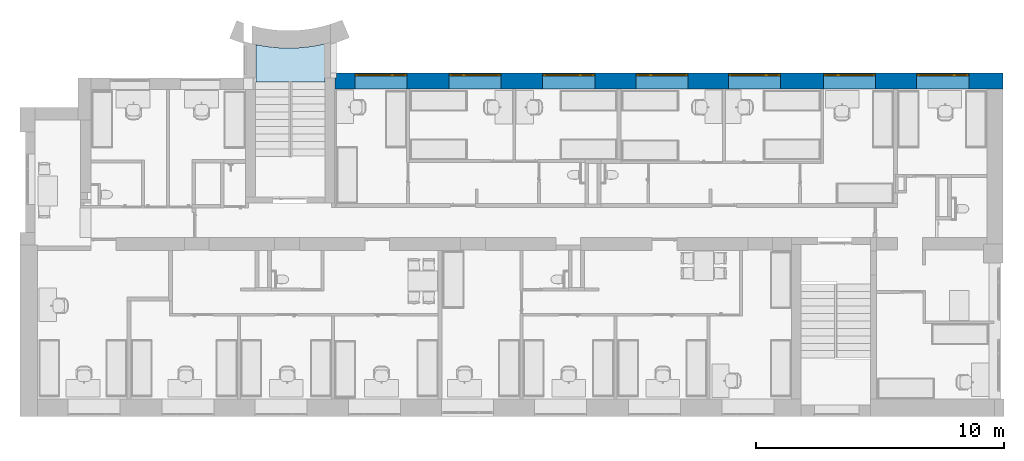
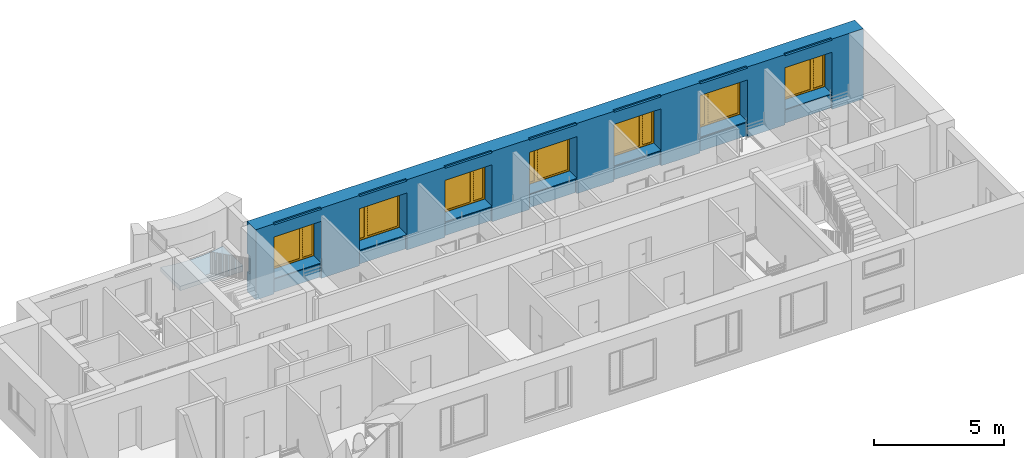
# One storey, part 14 of 48: 7 windows, 1 slab, 1 wall, 7 openings, 1 element without a shape of its own.
"""IFC2X3 building model written with IfcOpenShell, lengths in millimetres."""

from ifc_helpers import new_model, entity, si_unit, converted_unit, derived_unit, direction, frame, frame_2d, origin, place, context, subcontext, project, spatial, rectangle, extrude, faceted_brep, source, transform, mapped, material, material_list, layer, layer_set, type_object, type_shapes, element, fill, aggregate, save


model = new_model("IFC2X3")

# Units and contexts
model_context = context("Model", 3, precision=0.01, world=origin(), true_north=direction((6.12303176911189e-17, 1.0)))
body_context = subcontext(model_context, "Body", "Model", "MODEL_VIEW")
ifc_project = project(units=[si_unit("LENGTHUNIT", "METRE", prefix="MILLI"), si_unit("AREAUNIT", "SQUARE_METRE"), si_unit("VOLUMEUNIT", "CUBIC_METRE"), converted_unit("PLANEANGLEUNIT", "DEGREE", entity("IfcRatioMeasure", 0.0174532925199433), si_unit("PLANEANGLEUNIT", "RADIAN"), dimensions=[0, 0, 0, 0, 0, 0, 0]), si_unit("MASSUNIT", "GRAM", prefix="KILO"), derived_unit("MASSDENSITYUNIT", [(si_unit("MASSUNIT", "GRAM", prefix="KILO"), 1), (si_unit("LENGTHUNIT", "METRE"), -3)]), si_unit("TIMEUNIT", "SECOND"), si_unit("FREQUENCYUNIT", "HERTZ"), si_unit("THERMODYNAMICTEMPERATUREUNIT", "DEGREE_CELSIUS"), derived_unit("THERMALTRANSMITTANCEUNIT", [(si_unit("MASSUNIT", "GRAM", prefix="KILO"), 1), (si_unit("THERMODYNAMICTEMPERATUREUNIT", "KELVIN"), -1), (si_unit("TIMEUNIT", "SECOND"), -3)]), derived_unit("VOLUMETRICFLOWRATEUNIT", [(si_unit("LENGTHUNIT", "METRE"), 3), (si_unit("TIMEUNIT", "SECOND"), -1)]), si_unit("ELECTRICCURRENTUNIT", "AMPERE"), si_unit("ELECTRICVOLTAGEUNIT", "VOLT"), si_unit("POWERUNIT", "WATT"), si_unit("FORCEUNIT", "NEWTON", prefix="KILO"), si_unit("ILLUMINANCEUNIT", "LUX"), si_unit("LUMINOUSFLUXUNIT", "LUMEN"), si_unit("LUMINOUSINTENSITYUNIT", "CANDELA"), derived_unit("USERDEFINED", [(si_unit("MASSUNIT", "GRAM", prefix="KILO"), -1), (si_unit("LENGTHUNIT", "METRE"), -2), (si_unit("TIMEUNIT", "SECOND"), 3), (si_unit("LUMINOUSFLUXUNIT", "LUMEN"), 1)]), derived_unit("LINEARVELOCITYUNIT", [(si_unit("LENGTHUNIT", "METRE"), 1), (si_unit("TIMEUNIT", "SECOND"), -1)]), si_unit("PRESSUREUNIT", "PASCAL"), derived_unit("USERDEFINED", [(si_unit("LENGTHUNIT", "METRE"), -2), (si_unit("MASSUNIT", "GRAM", prefix="KILO"), 1), (si_unit("TIMEUNIT", "SECOND"), -2)]), derived_unit("LINEARFORCEUNIT", [(si_unit("MASSUNIT", "GRAM", prefix="KILO"), 1), (si_unit("LENGTHUNIT", "METRE"), 1), (si_unit("TIMEUNIT", "SECOND"), -2), (si_unit("LENGTHUNIT", "METRE"), -1)]), derived_unit("PLANARFORCEUNIT", [(si_unit("MASSUNIT", "GRAM", prefix="KILO"), 1), (si_unit("LENGTHUNIT", "METRE"), 1), (si_unit("TIMEUNIT", "SECOND"), -2), (si_unit("LENGTHUNIT", "METRE"), -2)])], contexts=[model_context])

# Site, building, storey
site_placement = place(None, origin())
site = spatial("IfcSite", under=ifc_project, at=site_placement, Name="Default", CompositionType="ELEMENT")
building_placement = place(site_placement, origin())
building = spatial("IfcBuilding", under=site, at=building_placement, Name="SMA ARH", CompositionType="ELEMENT")
storey_placement = place(building_placement, frame((0.0, 0.0, 3300.0)))
storey = spatial("IfcBuildingStorey", under=building, at=storey_placement, Name="2 Korrus", CompositionType="ELEMENT", Elevation=3299.99999999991)

# Stair, slab
stair_placement = place(storey_placement, origin())
stair = element("IfcStair", 1, at=stair_placement, inside=storey, Name="Cast-In-Place Stair:Stair", ObjectType="Cast-In-Place Stair:Cast-In-Place Stair", ShapeType="STRAIGHT_RUN_STAIR")
slab_type = type_object("IfcSlabType", Name="Monolithic Landing:300 mm Thickness", PredefinedType="LANDING")
slab_placement = place(stair_placement, frame((8813.40472776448, 12798.4708868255, 0.0)))
slab = element("IfcSlab", 2, at=slab_placement, type_object=slab_type, Name="Cast-In-Place Stair:Stair:912326 Landing 1", ObjectType="Monolithic Landing:300 mm Thickness", PredefinedType="LANDING", context=body_context, shape_type="Brep", body=[
    faceted_brep([(1121.17478743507, 1364.89497997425, 1570.0), (839.228157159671, 1380.49891291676, 1570.0), (558.269997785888, 1408.78137617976, 1570.0), (278.870144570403, 1449.68500768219, 1570.0), (1.5952722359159, 1503.12684727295, 1570.0), (1.5952722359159, 0.0, 1570.0), (1426.59527223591, 0.0, 1570.0), (2801.59527223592, 0.0, 1570.0), (2801.59527223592, 122.25920009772, 1570.0), (2801.59527223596, 1537.48908395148, 1570.0), (2525.71541000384, 1477.25880367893, 1570.0), (2247.40350973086, 1429.51080672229, 1570.0), (1967.22403956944, 1394.34193487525, 1570.0), (1685.74525545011, 1371.8235171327, 1570.0), (1403.53804855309, 1362.00122502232, 1570.0), (2801.59527223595, 1537.48908395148, 1370.0), (2525.71541000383, 1477.25880367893, 1370.0), (1967.22403956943, 1394.34193487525, 1370.0), (1685.74525545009, 1371.82351713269, 1370.0), (2247.40350973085, 1429.51080672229, 1370.0), (1403.53804855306, 1362.00122502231, 1370.0), (1121.17478743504, 1364.89497997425, 1370.0), (839.228157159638, 1380.49891291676, 1370.0), (278.87014457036, 1449.68500768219, 1370.0), (1.5952722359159, 1503.12684727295, 1370.0), (558.269997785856, 1408.78137617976, 1370.0), (1.5952722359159, 0.0, 1370.0), (2801.59527223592, 0.0, 1420.90909090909), (2801.59527223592, 0.0, 1309.24088237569), (2801.59527223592, 122.25920009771, 1370.0), (1426.59527223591, 122.25920009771, 1370.0), (1426.59527223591, 0.0, 1370.0), (1426.59527223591, 0.0, 1309.24088237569)], [[[0, 1, 2, 3, 4, 5, 6, 7, 8, 9, 10, 11, 12, 13, 14]], [[15, 16, 10, 9]], [[17, 18, 13, 12]], [[19, 17, 12, 11]], [[16, 19, 11, 10]], [[20, 14, 13, 18]], [[21, 22, 1, 0]], [[23, 24, 4, 3]], [[25, 23, 3, 2]], [[22, 25, 2, 1]], [[20, 21, 0, 14]], [[5, 4, 24, 26]], [[8, 7, 27, 28, 29, 15, 9]], [[16, 15, 29, 30, 31, 26, 24, 23, 25, 22, 21, 20, 18, 17, 19]], [[7, 6, 5, 26, 31, 32, 28, 27]], [[32, 30, 29, 28]], [[32, 31, 30]]]),
])
aggregate(stair, [slab])

# Wall, openings, windows
ifc_material_1 = material(Name="_ol.olev sein")
ifc_layer = layer(ifc_material_1, 665.0)
ifc_layer_set = layer_set([ifc_layer], Name="Basic Wall:Generic - 665mm")
wall_type = type_object("IfcWallType", Name="Basic Wall:Generic - 665mm", PredefinedType="STANDARD", material=ifc_layer_set)
wall_placement = place(storey_placement, frame((38965.0, 12832.4999999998, 0.0), z_axis=(0.0, 0.0, 1.0), x_axis=(-1.0, 0.0, 0.0)))
wall = element("IfcWall", 3, at=wall_placement, inside=storey, type_object=wall_type, Name="Basic Wall:Generic - 665mm", ObjectType="Basic Wall:Generic - 665mm", context=body_context, shape_type="Brep", body=[
    faceted_brep([(0.0, -332.5, 0.0), (26895.0, -332.500000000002, 0.0), (26965.0, -332.500000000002, 0.0), (26965.0, -332.5, 940.0), (26895.0, -332.500000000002, 940.0), (26895.0, -332.5, 1780.0), (26965.0, -332.500000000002, 1780.0), (26965.0, -332.500000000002, 3300.0), (26895.0, -332.500000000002, 3300.0), (0.0, -332.5, 3300.0), (20255.0, -332.5, 730.0), (20255.0, -332.5, 2680.0), (22355.0, -332.5, 2680.0), (22355.0, -332.5, 730.0), (18575.0, -332.5, 730.0), (16475.0, -332.5, 730.0), (16475.0, -332.5, 2680.0), (18575.0, -332.5, 2680.0), (12715.0, -332.5, 730.0), (12715.0, -332.5, 2680.0), (14815.0, -332.5, 2680.0), (14815.0, -332.5, 730.0), (11075.0, -332.5, 730.0), (8975.0, -332.5, 730.0), (8975.0, -332.5, 2680.0), (11075.0, -332.5, 2680.0), (5150.0, -332.5, 745.0), (5150.0, -332.5, 2695.0), (7250.0, -332.5, 2695.0), (7250.0, -332.5, 745.0), (3485.0, -332.5, 730.0), (1385.0, -332.5, 730.0), (1385.0, -332.5, 2680.0), (3485.0, -332.5, 2680.0), (26155.0, -332.5, 730.0), (24055.0, -332.5, 730.0), (24055.0, -332.5, 2680.0), (26155.0, -332.5, 2680.0), (0.0, 332.5, 0.0), (0.0, 332.5, 3300.0), (650.0, 332.5, 3300.0), (1385.0, 332.5, 3300.0), (1385.0, 332.5, 3240.0), (3485.0, 332.5, 3240.0), (3485.0, 332.5, 3300.0), (5150.0, 332.5, 3300.0), (5150.0, 332.5, 3240.0), (7250.0, 332.5, 3240.0), (7250.0, 332.5, 3300.0), (8975.0, 332.5, 3300.0), (8975.0, 332.5, 3240.0), (11075.0, 332.5, 3240.0), (11075.0, 332.5, 3300.0), (12715.0, 332.5, 3300.0), (12715.0, 332.5, 3240.0), (14815.0, 332.5, 3240.0), (14815.0, 332.5, 3300.0), (16475.0, 332.5, 3300.0), (16475.0, 332.5, 3240.0), (18575.0, 332.5, 3240.0), (18575.0, 332.5, 3300.0), (20255.0, 332.5, 3300.0), (20255.0, 332.5, 3240.0), (22355.0, 332.5, 3240.0), (22355.0, 332.5, 3300.0), (24055.0, 332.5, 3300.0), (24055.0, 332.5, 3240.0), (26155.0, 332.5, 3240.0), (26155.0, 332.5, 3300.0), (26965.0, 332.499999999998, 3300.0), (26965.0, 332.499999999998, 2970.0), (26965.0, 332.499999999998, 1780.0), (26965.0, 332.499999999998, 940.0), (26965.0, 332.499999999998, 0.0), (26963.2500000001, 332.499999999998, 0.0), (26900.7500000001, 332.499999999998, 0.0), (26155.0, 332.5, 0.0), (26155.0, 332.5, 697.825710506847), (24055.0, 332.5, 697.825710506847), (24055.0, 332.5, 0.0), (23949.5, 332.5, 0.0), (22355.0, 332.5, 0.0), (22355.0, 332.5, 697.825710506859), (20255.0, 332.5, 697.825710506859), (20255.0, 332.5, 0.0), (19779.5, 332.5, 0.0), (19663.5, 332.5, 0.0), (18575.0, 332.5, 0.0), (18575.0, 332.5, 697.825710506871), (16475.0, 332.5, 697.825710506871), (16475.0, 332.5, 0.0), (15573.75, 332.5, 0.0), (15411.25, 332.5, 0.0), (14815.0, 332.5, 0.0), (14815.0, 332.5, 697.825710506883), (12715.0, 332.5, 697.825710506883), (12715.0, 332.5, 0.0), (11321.5, 332.5, 0.0), (11205.5, 332.499999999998, 0.0), (11075.0, 332.5, 0.0), (11075.0, 332.5, 697.825710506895), (8975.0, 332.5, 697.825710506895), (8975.0, 332.5, 0.0), (7356.0, 332.5, 0.0), (7250.0, 332.5, 0.0), (7250.0, 332.5, 697.825710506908), (5150.0, 332.5, 697.825710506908), (5150.0, 332.5, 0.0), (4420.75, 332.499999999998, 0.0), (4258.25, 332.5, 0.0), (3485.0, 332.5, 0.0), (3485.0, 332.5, 697.82571050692), (1385.0, 332.5, 697.82571050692), (1385.0, 332.5, 0.0), (650.0, 332.5, 0.0), (20255.0, 332.5, 730.0), (22355.0, 332.5, 730.0), (22355.0, 332.5, 2680.0), (20255.0, 332.5, 2680.0), (18575.0, 332.5, 730.0), (18575.0, 332.5, 2680.0), (16475.0, 332.5, 2680.0), (16475.0, 332.5, 730.0), (12715.0, 332.5, 730.0), (14815.0, 332.5, 730.0), (14815.0, 332.5, 2680.0), (12715.0, 332.5, 2680.0), (11075.0, 332.5, 730.0), (11075.0, 332.5, 2680.0), (8975.0, 332.5, 2680.0), (8975.0, 332.5, 730.0), (5150.0, 332.5, 745.0), (7250.0, 332.5, 745.0), (7250.0, 332.5, 2695.0), (5150.0, 332.5, 2695.0), (3485.0, 332.5, 730.0), (3485.0, 332.5, 2680.0), (1385.0, 332.5, 2680.0), (1385.0, 332.5, 730.0), (26155.0, 332.5, 730.0), (26155.0, 332.5, 2680.0), (24055.0, 332.5, 2680.0), (24055.0, 332.5, 730.0), (1385.0, 232.499999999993, 0.0), (3485.0, 232.499999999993, 0.0), (5150.0, 232.499999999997, 0.0), (7250.0, 232.499999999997, 0.0), (8975.0, 232.499999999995, 0.0), (11075.0, 232.499999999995, 0.0), (12715.0, 232.499999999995, 0.0), (14815.0, 232.499999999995, 0.0), (16475.0, 232.499999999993, 0.0), (18575.0, 232.499999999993, 0.0), (20255.0, 232.499999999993, 0.0), (22355.0, 232.499999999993, 0.0), (24055.0, 232.49999999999, 0.0), (26155.0, 232.49999999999, 0.0), (26965.0, -112.499999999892, 0.0), (26965.0, -285.758096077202, 0.0), (26965.0, -112.499999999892, 3300.0), (26155.0, 232.49999999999, 3300.0), (24055.0, 232.49999999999, 3300.0), (22355.0, 232.499999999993, 3300.0), (20255.0, 232.499999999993, 3300.0), (18575.0, 232.499999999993, 3300.0), (16475.0, 232.499999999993, 3300.0), (14815.0, 232.499999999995, 3300.0), (12715.0, 232.499999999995, 3300.0), (11075.0, 232.499999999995, 3300.0), (8975.0, 232.499999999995, 3300.0), (7250.0, 232.499999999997, 3300.0), (5150.0, 232.499999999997, 3300.0), (3485.0, 232.499999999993, 3300.0), (1385.0, 232.499999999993, 3300.0), (26965.0, -112.499999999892, 940.0), (26895.0, -112.499999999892, 940.0), (26895.0, -112.499999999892, 1780.0), (26965.0, -112.499999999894, 1780.0), (24055.0, 232.49999999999, 697.825710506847), (26155.0, 232.49999999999, 697.825710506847), (20255.0, 232.499999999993, 697.825710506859), (22355.0, 232.499999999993, 697.825710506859), (16475.0, 232.499999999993, 697.825710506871), (18575.0, 232.499999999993, 697.825710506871), (12715.0, 232.499999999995, 697.825710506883), (14815.0, 232.499999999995, 697.825710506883), (8975.0, 232.499999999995, 697.825710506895), (11075.0, 232.499999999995, 697.825710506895), (5150.0, 232.499999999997, 697.825710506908), (7250.0, 232.499999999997, 697.825710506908), (1385.0, 232.499999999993, 697.82571050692), (3485.0, 232.499999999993, 697.82571050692), (26155.0, 232.49999999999, 3240.0), (24055.0, 232.49999999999, 3240.0), (22355.0, 232.499999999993, 3240.0), (20255.0, 232.499999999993, 3240.0), (18575.0, 232.499999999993, 3240.0), (16475.0, 232.499999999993, 3240.0), (14815.0, 232.499999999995, 3240.0), (12715.0, 232.499999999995, 3240.0), (11075.0, 232.499999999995, 3240.0), (8975.0, 232.499999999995, 3240.0), (7250.0, 232.499999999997, 3240.0), (5150.0, 232.499999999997, 3240.0), (3485.0, 232.499999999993, 3240.0), (1385.0, 232.499999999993, 3240.0)], [[[0, 1, 2, 3, 4, 5, 6, 7, 8, 9], [10, 11, 12, 13], [14, 15, 16, 17], [18, 19, 20, 21], [22, 23, 24, 25], [26, 27, 28, 29], [30, 31, 32, 33], [34, 35, 36, 37]], [[38, 39, 40, 41, 42, 43, 44, 45, 46, 47, 48, 49, 50, 51, 52, 53, 54, 55, 56, 57, 58, 59, 60, 61, 62, 63, 64, 65, 66, 67, 68, 69, 70, 71, 72, 73, 74, 75, 76, 77, 78, 79, 80, 81, 82, 83, 84, 85, 86, 87, 88, 89, 90, 91, 92, 93, 94, 95, 96, 97, 98, 99, 100, 101, 102, 103, 104, 105, 106, 107, 108, 109, 110, 111, 112, 113, 114], [115, 116, 117, 118], [119, 120, 121, 122], [123, 124, 125, 126], [127, 128, 129, 130], [131, 132, 133, 134], [135, 136, 137, 138], [139, 140, 141, 142]], [[2, 1, 0, 38, 114, 113, 143, 144, 110, 109, 108, 107, 145, 146, 104, 103, 102, 147, 148, 99, 98, 97, 96, 149, 150, 93, 92, 91, 90, 151, 152, 87, 86, 85, 84, 153, 154, 81, 80, 79, 155, 156, 76, 75, 74, 73, 157, 158]], [[9, 8, 7, 159, 69, 68, 160, 161, 65, 64, 162, 163, 61, 60, 164, 165, 57, 56, 166, 167, 53, 52, 168, 169, 49, 48, 170, 171, 45, 44, 172, 173, 41, 40, 39]], [[0, 9, 39, 38]], [[11, 10, 115, 118]], [[12, 11, 118, 117]], [[13, 12, 117, 116]], [[10, 13, 116, 115]], [[120, 119, 14, 17]], [[121, 120, 17, 16]], [[122, 121, 16, 15]], [[119, 122, 15, 14]], [[19, 18, 123, 126]], [[20, 19, 126, 125]], [[21, 20, 125, 124]], [[18, 21, 124, 123]], [[128, 127, 22, 25]], [[129, 128, 25, 24]], [[130, 129, 24, 23]], [[127, 130, 23, 22]], [[27, 26, 131, 134]], [[28, 27, 134, 133]], [[29, 28, 133, 132]], [[26, 29, 132, 131]], [[136, 135, 30, 33]], [[137, 136, 33, 32]], [[138, 137, 32, 31]], [[135, 138, 31, 30]], [[140, 139, 34, 37]], [[141, 140, 37, 36]], [[142, 141, 36, 35]], [[139, 142, 35, 34]], [[4, 3, 174, 175]], [[6, 5, 176, 177]], [[2, 158, 157, 73, 72, 174, 3]], [[5, 4, 175, 176]], [[175, 174, 177, 176]], [[72, 71, 177, 174]], [[69, 159, 7, 6, 177, 71, 70]], [[178, 179, 156, 155]], [[78, 178, 155, 79]], [[179, 77, 76, 156]], [[179, 178, 78, 77]], [[180, 181, 154, 153]], [[83, 180, 153, 84]], [[181, 82, 81, 154]], [[181, 180, 83, 82]], [[182, 183, 152, 151]], [[89, 182, 151, 90]], [[183, 88, 87, 152]], [[183, 182, 89, 88]], [[184, 185, 150, 149]], [[95, 184, 149, 96]], [[185, 94, 93, 150]], [[185, 184, 95, 94]], [[186, 187, 148, 147]], [[101, 186, 147, 102]], [[187, 100, 99, 148]], [[187, 186, 101, 100]], [[188, 189, 146, 145]], [[106, 188, 145, 107]], [[189, 105, 104, 146]], [[189, 188, 106, 105]], [[190, 191, 144, 143]], [[112, 190, 143, 113]], [[191, 111, 110, 144]], [[191, 190, 112, 111]], [[192, 193, 161, 160]], [[193, 66, 65, 161]], [[193, 192, 67, 66]], [[67, 192, 160, 68]], [[194, 195, 163, 162]], [[195, 62, 61, 163]], [[195, 194, 63, 62]], [[63, 194, 162, 64]], [[196, 197, 165, 164]], [[197, 58, 57, 165]], [[197, 196, 59, 58]], [[59, 196, 164, 60]], [[198, 199, 167, 166]], [[199, 54, 53, 167]], [[199, 198, 55, 54]], [[55, 198, 166, 56]], [[200, 201, 169, 168]], [[201, 50, 49, 169]], [[201, 200, 51, 50]], [[51, 200, 168, 52]], [[202, 203, 171, 170]], [[203, 46, 45, 171]], [[203, 202, 47, 46]], [[47, 202, 170, 48]], [[204, 205, 173, 172]], [[205, 42, 41, 173]], [[205, 204, 43, 42]], [[43, 204, 172, 44]]]),
])
opening_1_placement = place(wall_placement, frame((3485.0, 332.499999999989, 730.0)))
opening_1 = element("IfcOpeningElement", 4, at=opening_1_placement, cuts=wall, Name="SMA_W2, 2-jaotus:A-00 - 2100x1900:1", ObjectType="Opening", context=body_context, shape_type="SweptSolid", body=[
    extrude(rectangle(XDim=1950.0, YDim=2100.0, at=frame_2d((975.0, 1050.0), x_axis=(1.0, 0.0))), frame((0.0, 0.0, 0.0), z_axis=(0.0, -1.0, 0.0), x_axis=(0.0, 0.0, 1.0)), (0.0, 0.0, 1.0), 665.0),
])
opening_2_placement = place(wall_placement, frame((7250.0, 332.499999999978, 745.0)))
opening_2 = element("IfcOpeningElement", 5, at=opening_2_placement, cuts=wall, Name="SMA_W2, 2-jaotus:A-00 - 2100x1900:1", ObjectType="Opening", context=body_context, shape_type="SweptSolid", body=[
    extrude(rectangle(XDim=1950.0, YDim=2100.0, at=frame_2d((975.0, 1050.0), x_axis=(1.0, 0.0))), frame((0.0, 0.0, 0.0), z_axis=(0.0, -1.0, 0.0), x_axis=(0.0, 0.0, 1.0)), (0.0, 0.0, 1.0), 665.0),
])
opening_3_placement = place(wall_placement, frame((11075.0, 332.499999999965, 730.0)))
opening_3 = element("IfcOpeningElement", 6, at=opening_3_placement, cuts=wall, Name="SMA_W2, 2-jaotus:A-00 - 2100x1900:1", ObjectType="Opening", context=body_context, shape_type="SweptSolid", body=[
    extrude(rectangle(XDim=1950.0, YDim=2100.0, at=frame_2d((975.0, 1050.0), x_axis=(1.0, 0.0))), frame((0.0, 0.0, 0.0), z_axis=(0.0, -1.0, 0.0), x_axis=(0.0, 0.0, 1.0)), (0.0, 0.0, 1.0), 665.0),
])
opening_4_placement = place(wall_placement, frame((14815.0, 332.499999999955, 730.0)))
opening_4 = element("IfcOpeningElement", 7, at=opening_4_placement, cuts=wall, Name="SMA_W2, 2-jaotus:A-00 - 2100x1900:1", ObjectType="Opening", context=body_context, shape_type="SweptSolid", body=[
    extrude(rectangle(XDim=1950.0, YDim=2100.0, at=frame_2d((975.0, 1050.0), x_axis=(1.0, 0.0))), frame((0.0, 0.0, 0.0), z_axis=(0.0, -1.0, 0.0), x_axis=(0.0, 0.0, 1.0)), (0.0, 0.0, 1.0), 665.0),
])
opening_5_placement = place(wall_placement, frame((18575.0, 332.499999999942, 730.0)))
opening_5 = element("IfcOpeningElement", 8, at=opening_5_placement, cuts=wall, Name="SMA_W2, 2-jaotus:A-00 - 2100x1900:1", ObjectType="Opening", context=body_context, shape_type="SweptSolid", body=[
    extrude(rectangle(XDim=1950.0, YDim=2100.0, at=frame_2d((975.0, 1050.0), x_axis=(1.0, 0.0))), frame((0.0, 0.0, 0.0), z_axis=(0.0, -1.0, 0.0), x_axis=(0.0, 0.0, 1.0)), (0.0, 0.0, 1.0), 665.0),
])
opening_6_placement = place(wall_placement, frame((22355.0, 332.499999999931, 730.0)))
opening_6 = element("IfcOpeningElement", 9, at=opening_6_placement, cuts=wall, Name="SMA_W2, 2-jaotus:A-00 - 2100x1900:1", ObjectType="Opening", context=body_context, shape_type="SweptSolid", body=[
    extrude(rectangle(XDim=1950.0, YDim=2100.0, at=frame_2d((975.0, 1050.0), x_axis=(1.0, 0.0))), frame((0.0, 0.0, 0.0), z_axis=(0.0, -1.0, 0.0), x_axis=(0.0, 0.0, 1.0)), (0.0, 0.0, 1.0), 665.0),
])
opening_7_placement = place(wall_placement, frame((26155.0, 332.499999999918, 730.0)))
opening_7 = element("IfcOpeningElement", 10, at=opening_7_placement, cuts=wall, Name="SMA_W2, 2-jaotus:A-00 - 2100x1900:1", ObjectType="Opening", context=body_context, shape_type="SweptSolid", body=[
    extrude(rectangle(XDim=1950.0, YDim=2100.0, at=frame_2d((975.0, 1050.0), x_axis=(1.0, 0.0))), frame((0.0, 0.0, 0.0), z_axis=(0.0, -1.0, 0.0), x_axis=(0.0, 0.0, 1.0)), (0.0, 0.0, 1.0), 665.0),
])
ifc_material_2 = material(Name="Glass")
ifc_material_3 = material(Name="Hall")
ifc_material_list_1 = material_list([ifc_material_2, ifc_material_3])
ifc_material_4 = material(Name="<Unnamed>")
ifc_material_list_2 = material_list([ifc_material_3, ifc_material_4, ifc_material_3, ifc_material_4, ifc_material_2])
window_style_1 = type_object("IfcWindowStyle", Name="SMA_W2, 2-jaotus:A-00 - 2100x1900", ConstructionType="NOTDEFINED", OperationType="NOTDEFINED", ParameterTakesPrecedence=False, Sizeable=False, material=ifc_material_list_2)
shared_shape_1 = source(origin(), body_context, "Body", "Brep", [
    faceted_brep([(105.0, 555.0, 1845.0), (105.0, 555.0, 105.0), (1440.0, 555.0, 105.0), (1440.0, 555.0, 1845.0), (105.0, 575.0, 1845.0), (105.0, 575.0, 105.0), (1440.0, 575.0, 105.0), (1440.0, 575.0, 1845.0)], [[[0, 1, 2, 3]], [[1, 0, 4, 5]], [[2, 1, 5, 6]], [[3, 2, 6, 7]], [[4, 7, 6, 5]], [[0, 3, 7, 4]]]),
    faceted_brep([(1580.0, 555.0, 105.0), (1995.0, 555.0, 105.0), (1995.0, 555.0, 1845.0), (1580.0, 555.0, 1845.0), (1580.0, 575.0, 105.0), (1995.0, 575.0, 105.0), (1995.0, 575.0, 1845.0), (1580.0, 575.0, 1845.0)], [[[0, 1, 2, 3]], [[1, 0, 4, 5]], [[2, 1, 5, 6]], [[0, 3, 7, 4]], [[4, 7, 6, 5]], [[3, 2, 6, 7]]]),
    faceted_brep([(35.0, 540.0, 35.0), (1510.0, 540.0, 35.0), (1510.0, 540.0, 1915.0), (35.0, 540.0, 1915.0), (1440.0, 540.0, 1845.0), (1440.0, 540.0, 105.0), (105.0, 540.0, 105.0), (105.0, 540.0, 1845.0), (35.0, 590.0, 35.0), (1510.0, 590.0, 35.0), (1510.0, 590.0, 1915.0), (35.0, 590.0, 1915.0), (1440.0, 590.0, 1845.0), (1440.0, 590.0, 105.0), (105.0, 590.0, 105.0), (105.0, 590.0, 1845.0)], [[[0, 1, 2, 3], [4, 5, 6, 7]], [[1, 0, 8, 9]], [[2, 1, 9, 10]], [[0, 3, 11, 8]], [[5, 4, 12, 13]], [[6, 5, 13, 14]], [[7, 6, 14, 15]], [[8, 11, 10, 9], [12, 15, 14, 13]], [[3, 2, 10, 11]], [[4, 7, 15, 12]]]),
    faceted_brep([(1510.0, 540.0, 35.0), (2065.0, 540.0, 35.0), (2065.0, 540.0, 1915.0), (1510.0, 540.0, 1915.0), (1995.0, 540.0, 1845.0), (1995.0, 540.0, 105.0), (1580.0, 540.0, 105.0), (1580.0, 540.0, 1845.0), (1510.0, 590.0, 35.0), (2065.0, 590.0, 35.0), (2065.0, 590.0, 1915.0), (1510.0, 590.0, 1915.0), (1995.0, 590.0, 1845.0), (1995.0, 590.0, 105.0), (1580.0, 590.0, 105.0), (1580.0, 590.0, 1845.0)], [[[0, 1, 2, 3], [4, 5, 6, 7]], [[1, 0, 8, 9]], [[2, 1, 9, 10]], [[0, 3, 11, 8]], [[5, 4, 12, 13]], [[6, 5, 13, 14]], [[7, 6, 14, 15]], [[8, 11, 10, 9], [12, 15, 14, 13]], [[3, 2, 10, 11]], [[4, 7, 15, 12]]]),
    faceted_brep([(0.0, 565.0, 0.0), (2100.0, 565.0, 0.0), (2100.0, 565.0, 1950.0), (0.0, 565.0, 1950.0), (2065.0, 565.0, 35.0), (1510.0, 565.0, 35.0), (1510.0, 565.0, 1915.0), (2065.0, 565.0, 1915.0), (70.0, 565.0, 1880.0), (1475.0, 565.0, 1880.0), (1475.0, 565.0, 70.0), (70.0, 565.0, 70.0), (0.0, 615.0, 0.0), (2100.0, 615.0, 0.0), (2100.0, 615.0, 1950.0), (0.0, 615.0, 1950.0), (1475.0, 615.0, 1880.0), (1475.0, 615.0, 70.0), (70.0, 615.0, 70.0), (70.0, 615.0, 1880.0), (2065.0, 590.0, 35.0), (1510.0, 590.0, 35.0), (1510.0, 590.0, 1915.0), (2065.0, 590.0, 1915.0), (1545.0, 615.0, 1880.0), (1545.0, 615.0, 70.0), (2030.0, 615.0, 70.0), (2030.0, 615.0, 1880.0), (1545.0, 590.0, 1880.0), (1545.0, 590.0, 70.0), (2030.0, 590.0, 70.0), (2030.0, 590.0, 1880.0)], [[[0, 1, 2, 3], [4, 5, 6, 7], [8, 9, 10, 11]], [[1, 0, 12, 13]], [[2, 1, 13, 14]], [[0, 3, 15, 12]], [[10, 9, 16, 17]], [[11, 10, 17, 18]], [[8, 11, 18, 19]], [[20, 21, 5, 4]], [[21, 22, 6, 5]], [[23, 20, 4, 7]], [[12, 15, 14, 13], [19, 18, 17, 16], [24, 25, 26, 27]], [[25, 24, 28, 29]], [[26, 25, 29, 30]], [[27, 26, 30, 31]], [[21, 20, 23, 22], [28, 31, 30, 29]], [[3, 2, 14, 15]], [[9, 8, 19, 16]], [[22, 23, 7, 6]], [[24, 27, 31, 28]]]),
])
type_shapes(window_style_1, [shared_shape_1])
window_1_placement = place(opening_1_placement, frame((0.0, 0.0, 0.0), z_axis=(0.0, 0.0, 1.0), x_axis=(-1.0, 0.0, 0.0)))
window_1 = element("IfcWindow", 11, at=window_1_placement, inside=storey, type_object=window_style_1, material=ifc_material_list_1, Name="SMA_W2, 2-jaotus:A-00 - 2100x1900", ObjectType="SMA_W2, 2-jaotus:A-00 - 2100x1900", OverallHeight=1950.0, OverallWidth=2100.0, context=body_context, shape_type="MappedRepresentation", body=[
    mapped(shared_shape_1, transform((0.0, 0.0, 0.0), scale=1.0)),
])
fill(opening_1, window_1)
ifc_material_list_3 = material_list([ifc_material_2, ifc_material_3])
window_2_placement = place(opening_3_placement, frame((0.0, 0.0, 0.0), z_axis=(0.0, 0.0, 1.0), x_axis=(-1.0, 0.0, 0.0)))
window_2 = element("IfcWindow", 12, at=window_2_placement, inside=storey, type_object=window_style_1, material=ifc_material_list_3, Name="SMA_W2, 2-jaotus:A-00 - 2100x1900", ObjectType="SMA_W2, 2-jaotus:A-00 - 2100x1900", OverallHeight=1950.0, OverallWidth=2100.0, context=body_context, shape_type="MappedRepresentation", body=[
    mapped(shared_shape_1, transform((0.0, 0.0, 0.0), scale=1.0)),
])
fill(opening_3, window_2)
ifc_material_list_4 = material_list([ifc_material_2, ifc_material_3])
window_3_placement = place(opening_5_placement, frame((0.0, 0.0, 0.0), z_axis=(0.0, 0.0, 1.0), x_axis=(-1.0, 0.0, 0.0)))
window_3 = element("IfcWindow", 13, at=window_3_placement, inside=storey, type_object=window_style_1, material=ifc_material_list_4, Name="SMA_W2, 2-jaotus:A-00 - 2100x1900", ObjectType="SMA_W2, 2-jaotus:A-00 - 2100x1900", OverallHeight=1950.0, OverallWidth=2100.0, context=body_context, shape_type="MappedRepresentation", body=[
    mapped(shared_shape_1, transform((0.0, 0.0, 0.0), scale=1.0)),
])
fill(opening_5, window_3)
ifc_material_list_5 = material_list([ifc_material_2, ifc_material_3])
window_4_placement = place(opening_7_placement, frame((0.0, 0.0, 0.0), z_axis=(0.0, 0.0, 1.0), x_axis=(-1.0, 0.0, 0.0)))
window_4 = element("IfcWindow", 14, at=window_4_placement, inside=storey, type_object=window_style_1, material=ifc_material_list_5, Name="SMA_W2, 2-jaotus:A-00 - 2100x1900", ObjectType="SMA_W2, 2-jaotus:A-00 - 2100x1900", OverallHeight=1950.0, OverallWidth=2100.0, context=body_context, shape_type="MappedRepresentation", body=[
    mapped(shared_shape_1, transform((0.0, 0.0, 0.0), scale=1.0)),
])
fill(opening_7, window_4)
ifc_material_list_6 = material_list([ifc_material_2, ifc_material_3])
ifc_material_list_7 = material_list([ifc_material_3, ifc_material_4, ifc_material_3, ifc_material_4, ifc_material_2])
window_style_2 = type_object("IfcWindowStyle", Name="SMA_W2, 2-jaotus:A-00 - 2100x1900", ConstructionType="NOTDEFINED", OperationType="NOTDEFINED", ParameterTakesPrecedence=False, Sizeable=False, material=ifc_material_list_7)
shared_shape_2 = source(origin(), body_context, "Body", "Brep", [
    faceted_brep([(1995.0, 555.0, 1845.0), (660.0, 555.0, 1845.0), (660.0, 555.0, 105.0), (1995.0, 555.0, 105.0), (1995.0, 575.0, 105.0), (1995.0, 575.0, 1845.0), (660.0, 575.0, 105.0), (660.0, 575.0, 1845.0)], [[[0, 1, 2, 3]], [[3, 4, 5, 0]], [[2, 6, 4, 3]], [[1, 7, 6, 2]], [[5, 4, 6, 7]], [[0, 5, 7, 1]]]),
    faceted_brep([(520.0, 555.0, 105.0), (520.0, 555.0, 1845.0), (105.0, 555.0, 1845.0), (105.0, 555.0, 105.0), (105.0, 575.0, 105.0), (520.0, 575.0, 105.0), (105.0, 575.0, 1845.0), (520.0, 575.0, 1845.0)], [[[0, 1, 2, 3]], [[3, 4, 5, 0]], [[2, 6, 4, 3]], [[0, 5, 7, 1]], [[5, 4, 6, 7]], [[1, 7, 6, 2]]]),
    faceted_brep([(2065.0, 540.0, 35.0), (2065.0, 540.0, 1915.0), (590.0, 540.0, 1915.0), (590.0, 540.0, 35.0), (660.0, 540.0, 1845.0), (1995.0, 540.0, 1845.0), (1995.0, 540.0, 105.0), (660.0, 540.0, 105.0), (590.0, 590.0, 35.0), (2065.0, 590.0, 35.0), (590.0, 590.0, 1915.0), (2065.0, 590.0, 1915.0), (660.0, 590.0, 105.0), (660.0, 590.0, 1845.0), (1995.0, 590.0, 105.0), (1995.0, 590.0, 1845.0)], [[[0, 1, 2, 3], [4, 5, 6, 7]], [[3, 8, 9, 0]], [[2, 10, 8, 3]], [[0, 9, 11, 1]], [[7, 12, 13, 4]], [[6, 14, 12, 7]], [[5, 15, 14, 6]], [[9, 8, 10, 11], [13, 12, 14, 15]], [[1, 11, 10, 2]], [[4, 13, 15, 5]]]),
    faceted_brep([(590.0, 540.0, 35.0), (590.0, 540.0, 1915.0), (35.0, 540.0, 1915.0), (35.0, 540.0, 35.0), (105.0, 540.0, 1845.0), (520.0, 540.0, 1845.0), (520.0, 540.0, 105.0), (105.0, 540.0, 105.0), (35.0, 590.0, 35.0), (590.0, 590.0, 35.0), (35.0, 590.0, 1915.0), (590.0, 590.0, 1915.0), (105.0, 590.0, 105.0), (105.0, 590.0, 1845.0), (520.0, 590.0, 105.0), (520.0, 590.0, 1845.0)], [[[0, 1, 2, 3], [4, 5, 6, 7]], [[3, 8, 9, 0]], [[2, 10, 8, 3]], [[0, 9, 11, 1]], [[7, 12, 13, 4]], [[6, 14, 12, 7]], [[5, 15, 14, 6]], [[9, 8, 10, 11], [13, 12, 14, 15]], [[1, 11, 10, 2]], [[4, 13, 15, 5]]]),
    faceted_brep([(35.0, 565.0, 35.0), (35.0, 565.0, 1915.0), (590.0, 565.0, 1915.0), (590.0, 565.0, 35.0), (2030.0, 565.0, 1880.0), (2030.0, 565.0, 70.0), (625.0, 565.0, 70.0), (625.0, 565.0, 1880.0), (2100.0, 565.0, 0.0), (2100.0, 565.0, 1950.0), (0.0, 565.0, 1950.0), (0.0, 565.0, 0.0), (0.0, 615.0, 0.0), (2100.0, 615.0, 0.0), (0.0, 615.0, 1950.0), (2100.0, 615.0, 1950.0), (625.0, 615.0, 70.0), (625.0, 615.0, 1880.0), (2030.0, 615.0, 70.0), (2030.0, 615.0, 1880.0), (35.0, 590.0, 35.0), (590.0, 590.0, 35.0), (590.0, 590.0, 1915.0), (35.0, 590.0, 1915.0), (555.0, 615.0, 1880.0), (70.0, 615.0, 1880.0), (70.0, 615.0, 70.0), (555.0, 615.0, 70.0), (555.0, 590.0, 70.0), (555.0, 590.0, 1880.0), (70.0, 590.0, 70.0), (70.0, 590.0, 1880.0)], [[[0, 1, 2, 3], [4, 5, 6, 7], [8, 9, 10, 11]], [[11, 12, 13, 8]], [[10, 14, 12, 11]], [[8, 13, 15, 9]], [[6, 16, 17, 7]], [[5, 18, 16, 6]], [[4, 19, 18, 5]], [[20, 0, 3, 21]], [[21, 3, 2, 22]], [[23, 1, 0, 20]], [[13, 12, 14, 15], [19, 17, 16, 18], [24, 25, 26, 27]], [[27, 28, 29, 24]], [[26, 30, 28, 27]], [[25, 31, 30, 26]], [[21, 22, 23, 20], [29, 28, 30, 31]], [[9, 15, 14, 10]], [[7, 17, 19, 4]], [[22, 2, 1, 23]], [[24, 29, 31, 25]]], outer=[[False, False, True], [True], [True], [True], [True], [True], [True], [True], [True], [True], [True, False, False], [True], [True], [True], [True, False], [True], [True], [True], [True]]),
])
type_shapes(window_style_2, [shared_shape_2])
window_5_placement = place(opening_2_placement, frame((0.0, 0.0, 0.0), z_axis=(0.0, 0.0, 1.0), x_axis=(-1.0, 0.0, 0.0)))
window_5 = element("IfcWindow", 15, at=window_5_placement, inside=storey, type_object=window_style_2, material=ifc_material_list_6, Name="SMA_W2, 2-jaotus:A-00 - 2100x1900", ObjectType="SMA_W2, 2-jaotus:A-00 - 2100x1900", OverallHeight=1950.0, OverallWidth=2100.0, context=body_context, shape_type="MappedRepresentation", body=[
    mapped(shared_shape_2, transform((0.0, 0.0, 0.0), scale=1.0)),
])
fill(opening_2, window_5)
ifc_material_list_8 = material_list([ifc_material_2, ifc_material_3])
window_6_placement = place(opening_4_placement, frame((0.0, 0.0, 0.0), z_axis=(0.0, 0.0, 1.0), x_axis=(-1.0, 0.0, 0.0)))
window_6 = element("IfcWindow", 16, at=window_6_placement, inside=storey, type_object=window_style_2, material=ifc_material_list_8, Name="SMA_W2, 2-jaotus:A-00 - 2100x1900", ObjectType="SMA_W2, 2-jaotus:A-00 - 2100x1900", OverallHeight=1950.0, OverallWidth=2100.0, context=body_context, shape_type="MappedRepresentation", body=[
    mapped(shared_shape_2, transform((0.0, 0.0, 0.0), scale=1.0)),
])
fill(opening_4, window_6)
ifc_material_list_9 = material_list([ifc_material_2, ifc_material_3])
window_7_placement = place(opening_6_placement, frame((0.0, 0.0, 0.0), z_axis=(0.0, 0.0, 1.0), x_axis=(-1.0, 0.0, 0.0)))
window_7 = element("IfcWindow", 17, at=window_7_placement, inside=storey, type_object=window_style_2, material=ifc_material_list_9, Name="SMA_W2, 2-jaotus:A-00 - 2100x1900", ObjectType="SMA_W2, 2-jaotus:A-00 - 2100x1900", OverallHeight=1950.0, OverallWidth=2100.0, context=body_context, shape_type="MappedRepresentation", body=[
    mapped(shared_shape_2, transform((0.0, 0.0, 0.0), scale=1.0)),
])
fill(opening_6, window_7)

save(model, "model.ifc")
